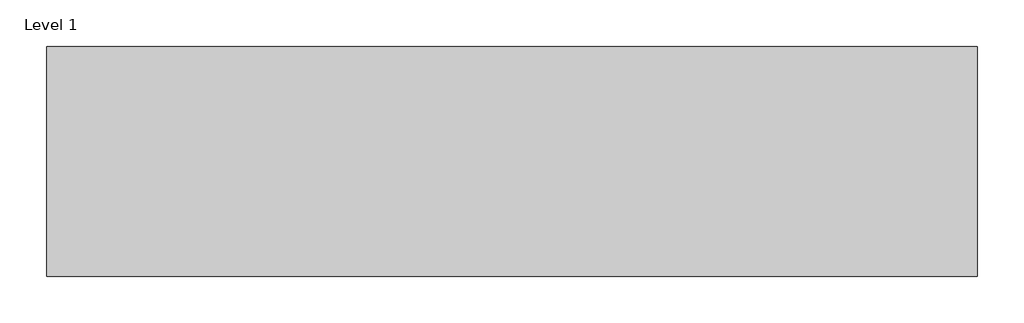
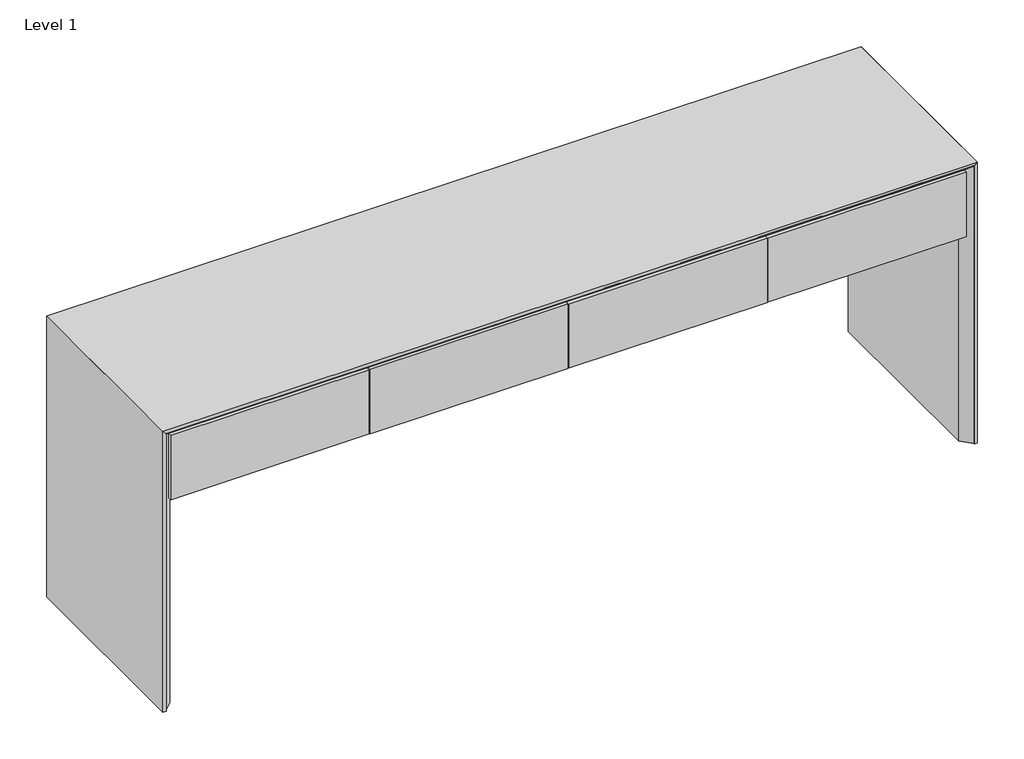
# One storey, incomplete: 1 proxy.
"""IFC4 building model written with IfcOpenShell, lengths in millimetres."""

from ifc_helpers import new_model, si_unit, origin, place, context, project, spatial, transform, mapped, element, save
from components import generic_models_10aa70d1

model = new_model("IFC4")

# Units and contexts
model_context = context("Model", 3, world=origin())
ifc_project = project(units=[si_unit("LENGTHUNIT", "METRE", prefix="MILLI")], contexts=[model_context])

# Site, building, storey
site = spatial("IfcSite", under=ifc_project)
building = spatial("IfcBuilding", under=site)
storey = spatial("IfcBuildingStorey", under=building, Name="Level 1", Elevation=0.0)

# Proxy
placement = place(None, origin())
generic_models_shape = generic_models_10aa70d1(model_context)
element("IfcBuildingElementProxy", 1, Name="AERO^STANDARD_CONSOLE CREDENZA 35H-SOLID ASSEMBLY", ObjectType="AERO^STANDARD_CONSOLE CREDENZA 35H-SOLID ASSEMBLY", at=placement, inside=storey, context=model_context, shape_type="MappedRepresentation", body=[
    mapped(generic_models_shape, transform((0.0, 0.0, -231.775), x_axis=(1.0, 0.0, 0.0), y_axis=(0.0, 0.0, 1.0), z_axis=(0.0, -1.0, 0.0))),
])

save(model, "model.ifc")
